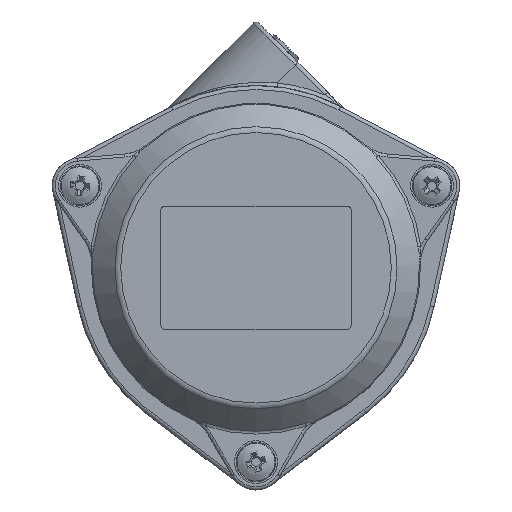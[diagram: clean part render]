
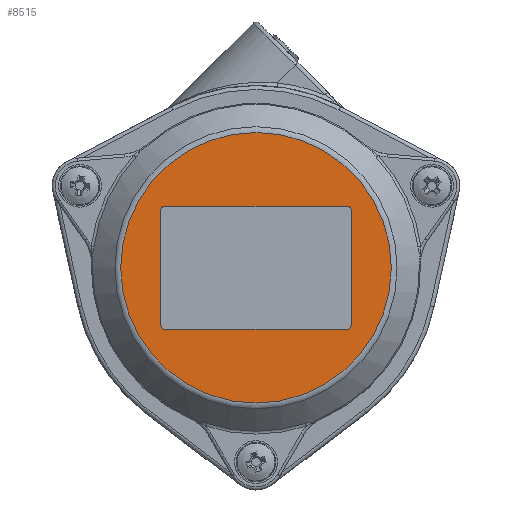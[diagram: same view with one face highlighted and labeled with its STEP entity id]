
A CAD part, top view. The second image highlights one B-rep face of the part: STEP entity #8515.
In plain terms, the highlighted planar face has unit normal (0, 0, 1).
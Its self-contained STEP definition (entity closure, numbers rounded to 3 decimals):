
#202=FACE_BOUND('',#2180,.T.);
#1044=PLANE('',#9494);
#1671=FACE_OUTER_BOUND('',#2179,.T.);
#2179=EDGE_LOOP('',(#7968));
#2180=EDGE_LOOP('',(#7969,#7970,#7971,#7972,#7973,#7974,#7975,#7976));
#2640=LINE('',#16567,#3112);
#2644=LINE('',#16576,#3116);
#2647=LINE('',#16584,#3119);
#2650=LINE('',#16592,#3122);
#3112=VECTOR('',#11844,10.);
#3116=VECTOR('',#11854,10.);
#3119=VECTOR('',#11863,10.);
#3122=VECTOR('',#11872,10.);
#3601=CIRCLE('',#9481,1.);
#3602=CIRCLE('',#9484,1.);
#3603=CIRCLE('',#9487,1.);
#3604=CIRCLE('',#9490,1.);
#3605=CIRCLE('',#9495,34.128);
#4355=VERTEX_POINT('',#16564);
#4356=VERTEX_POINT('',#16566);
#4357=VERTEX_POINT('',#16570);
#4358=VERTEX_POINT('',#16574);
#4359=VERTEX_POINT('',#16578);
#4360=VERTEX_POINT('',#16582);
#4361=VERTEX_POINT('',#16586);
#4362=VERTEX_POINT('',#16590);
#4363=VERTEX_POINT('',#16602);
#5550=EDGE_CURVE('',#4356,#4355,#2640,.T.);
#5553=EDGE_CURVE('',#4355,#4357,#3601,.T.);
#5555=EDGE_CURVE('',#4357,#4358,#2644,.T.);
#5557=EDGE_CURVE('',#4358,#4359,#3602,.T.);
#5559=EDGE_CURVE('',#4359,#4360,#2647,.T.);
#5561=EDGE_CURVE('',#4360,#4361,#3603,.T.);
#5563=EDGE_CURVE('',#4361,#4362,#2650,.T.);
#5564=EDGE_CURVE('',#4362,#4356,#3604,.T.);
#5568=EDGE_CURVE('',#4363,#4363,#3605,.T.);
#7968=ORIENTED_EDGE('',*,*,#5568,.F.);
#7969=ORIENTED_EDGE('',*,*,#5564,.T.);
#7970=ORIENTED_EDGE('',*,*,#5550,.T.);
#7971=ORIENTED_EDGE('',*,*,#5553,.T.);
#7972=ORIENTED_EDGE('',*,*,#5555,.T.);
#7973=ORIENTED_EDGE('',*,*,#5557,.T.);
#7974=ORIENTED_EDGE('',*,*,#5559,.T.);
#7975=ORIENTED_EDGE('',*,*,#5561,.T.);
#7976=ORIENTED_EDGE('',*,*,#5563,.T.);
#8515=ADVANCED_FACE('',(#1671,#202),#1044,.T.);
#9481=AXIS2_PLACEMENT_3D('',#16572,#11849,#11850);
#9484=AXIS2_PLACEMENT_3D('',#16580,#11858,#11859);
#9487=AXIS2_PLACEMENT_3D('',#16588,#11867,#11868);
#9490=AXIS2_PLACEMENT_3D('',#16594,#11875,#11876);
#9494=AXIS2_PLACEMENT_3D('',#16601,#11886,#11887);
#9495=AXIS2_PLACEMENT_3D('',#16603,#11888,#11889);
#11844=DIRECTION('',(1.,0.,0.));
#11849=DIRECTION('center_axis',(0.,0.,
-1.));
#11850=DIRECTION('ref_axis',(-1.,0.,0.));
#11854=DIRECTION('',(0.,-1.,0.));
#11858=DIRECTION('center_axis',(0.,0.,
-1.));
#11859=DIRECTION('ref_axis',(0.,1.,0.));
#11863=DIRECTION('',(-1.,0.,0.));
#11867=DIRECTION('center_axis',(0.,0.,
-1.));
#11868=DIRECTION('ref_axis',(1.,0.,0.));
#11872=DIRECTION('',(0.,1.,0.));
#11875=DIRECTION('center_axis',(0.,0.,
-1.));
#11876=DIRECTION('ref_axis',(0.,-1.,0.));
#11886=DIRECTION('center_axis',(0.,0.,
1.));
#11887=DIRECTION('ref_axis',(0.,-1.,0.));
#11888=DIRECTION('center_axis',(0.,0.,
-1.));
#11889=DIRECTION('ref_axis',(1.,0.,0.));
#16564=CARTESIAN_POINT('',(23.,15.5,14.));
#16566=CARTESIAN_POINT('',(-23.,15.5,14.));
#16567=CARTESIAN_POINT('',(20.032,15.5,14.));
#16570=CARTESIAN_POINT('',(24.,14.5,14.));
#16572=CARTESIAN_POINT('Origin',(23.,14.5,14.));
#16574=CARTESIAN_POINT('',(24.,-14.5,14.));
#16576=CARTESIAN_POINT('',(24.,-7.25,14.));
#16578=CARTESIAN_POINT('',(23.,-15.5,14.));
#16580=CARTESIAN_POINT('Origin',(23.,-14.5,14.));
#16582=CARTESIAN_POINT('',(-23.,-15.5,14.));
#16584=CARTESIAN_POINT('',(-2.968,-15.5,14.));
#16586=CARTESIAN_POINT('',(-24.,-14.5,14.));
#16588=CARTESIAN_POINT('Origin',(-23.,-14.5,14.));
#16590=CARTESIAN_POINT('',(-24.,14.5,14.));
#16592=CARTESIAN_POINT('',(-24.,7.25,14.));
#16594=CARTESIAN_POINT('Origin',(-23.,14.5,14.));
#16601=CARTESIAN_POINT('Origin',(17.064,0.,
14.));
#16602=CARTESIAN_POINT('',(0.,-34.128,14.));
#16603=CARTESIAN_POINT('Origin',(0.,0.,
14.));
